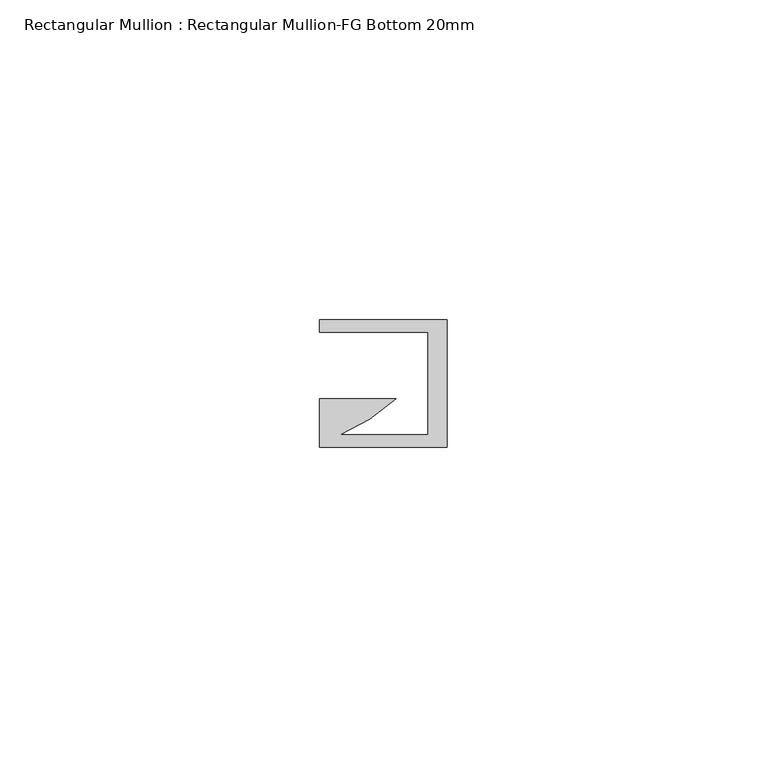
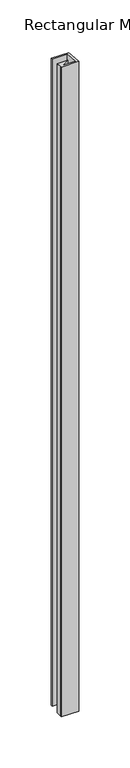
"""IFC4 building model written with IfcOpenShell, lengths in millimetres: member geometry, Rectangular Mullion : Rectangular Mullion-FG Bottom 20mm."""

from ifc_helpers import new_model, si_unit, frame, origin, place, context, project, spatial, ellipse_curve, source, transform, mapped, element, save
from ifc_brep_helpers import plane_surface, cylinder_surface, advanced_brep


def rectangular_mullion_rectangular_mullion_fg_bottom_20mm_7ce49348(model_context):
    return source(origin(), model_context, "Body", "AdvancedBrep", [
        advanced_brep(
        [(-20.0, -0.001, 9.23e-05), (0.0, -0.001, 9.23e-05), (0.0, -0.001, -773.9460596), (-20.0, -0.001, -773.9460596), (-20.0, -2.001, 0.1847207), (-20.0, -2.001, -774.130688), (-3.0, -2.001, 0.1847207), (-3.0, -2.001, -774.130688), (-3.0, -18.001, 1.6617475), (-3.0, -18.001, -775.6077148), (-16.7813522, -18.001, 1.6617475), (-16.7813522, -18.001, -775.6077148), (-8.0121425, -12.381, 1.1429418), (-8.0121425, -12.381, -775.0889091), (-20.0, -12.381, 1.1429418), (-20.0, -12.381, -775.0889091), (-20.0, -18.001, 1.6617475), (-20.0, -18.001, -775.6077148), (-20.0, -20.001, 1.8463758), (-20.0, -20.001, -775.7923432), (0.0, -20.001, 1.8463758), (0.0, -20.001, -775.7923432)],
        [
            (0, 1),
            (1, 2),
            (2, 3),
            (3, 0),
            (4, 0),
            (3, 5),
            (5, 4),
            (6, 4),
            (5, 7),
            (7, 6),
            (8, 6),
            (7, 9),
            (9, 8),
            (10, 8),
            (9, 11),
            (11, 10),
            (12, 10, ellipse_curve(frame((-28.5616269, 10.0319926, -0.9260951), z_axis=(0.0, -0.09192332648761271, -0.995766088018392), x_axis=(0.0, -0.9957660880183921, 0.09192332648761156)), 30.5369138, 30.4076232)),
            (11, 13, ellipse_curve(frame((-28.5616269, 10.0319926, -773.0198722), z_axis=(0.0, -0.09192332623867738, 0.9957660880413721), x_axis=(0.0, 0.9957660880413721, 0.09192332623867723)), 30.5369138, 30.4076232)),
            (13, 12),
            (14, 12),
            (13, 15),
            (15, 14),
            (16, 14),
            (15, 17),
            (17, 16),
            (18, 16),
            (17, 19),
            (19, 18),
            (20, 18),
            (19, 21),
            (21, 20),
            (1, 20),
            (21, 2),
        ],
        [
            plane_surface(frame((0.0, -0.001, 0.0), z_axis=(0.0, 1.0, 0.0), x_axis=(0.0, 0.0, -1.0))),
            plane_surface(frame((-20.0, -0.001, 0.0), z_axis=(-1.0, 0.0, 0.0), x_axis=(0.0, 0.0, -1.0))),
            plane_surface(frame((-20.0, -2.001, 0.0), z_axis=(0.0, -1.0, 0.0), x_axis=(0.0, 0.0, -1.0))),
            plane_surface(frame((-3.0, -2.001, 0.0), z_axis=(-1.0, 0.0, 0.0), x_axis=(0.0, 0.0, -1.0))),
            plane_surface(frame((-3.0, -18.001, 0.0), z_axis=(0.0, 1.0, 0.0), x_axis=(0.0, 0.0, -1.0))),
            cylinder_surface(frame((-28.5616269, 10.0319926, 0.0), z_axis=(0.0, 0.0, 1.0), x_axis=(-1.0, 0.0, 0.0)), 30.4076232),
            plane_surface(frame((-8.0121425, -12.381, 0.0), z_axis=(0.0, 1.0, 0.0), x_axis=(0.0, 0.0, -1.0))),
            plane_surface(frame((-20.0, -12.381, 0.0), z_axis=(-1.0, 0.0, 0.0), x_axis=(0.0, 0.0, -1.0))),
            plane_surface(frame((-20.0, -18.001, 0.0), z_axis=(-1.0, 0.0, 0.0), x_axis=(0.0, 0.0, -1.0))),
            plane_surface(frame((-20.0, -20.001, 0.0), z_axis=(0.0, -1.0, 0.0), x_axis=(0.0, 0.0, -1.0))),
            plane_surface(frame((0.0, -20.001, 0.0), z_axis=(1.0, 0.0, 0.0), x_axis=(0.0, 0.0, -1.0))),
            plane_surface(frame((-304.8, 0.0, 0.0), z_axis=(0.0, 0.09192332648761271, 0.995766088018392), x_axis=(0.0, 0.995766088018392, -0.09192332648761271))),
            plane_surface(frame((-304.8, 0.0, -773.9459673), z_axis=(0.0, 0.09192332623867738, -0.9957660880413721), x_axis=(0.0, 0.9957660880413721, 0.09192332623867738))),
        ],
        [
            (0, [[1, 2, 3, 4]]),
            (1, [[5, -4, 6, 7]]),
            (2, [[8, -7, 9, 10]]),
            (3, [[11, -10, 12, 13]]),
            (4, [[14, -13, 15, 16]]),
            (5, [[17, -16, 18, 19]]),
            (6, [[20, -19, 21, 22]]),
            (7, [[23, -22, 24, 25]]),
            (8, [[26, -25, 27, 28]]),
            (9, [[29, -28, 30, 31]]),
            (10, [[32, -31, 33, -2]]),
            (11, [[-1, -5, -8, -11, -14, -17, -20, -23, -26, -29, -32]]),
            (12, [[-33, -30, -27, -24, -21, -18, -15, -12, -9, -6, -3]]),
        ],
    ),
    ])


if __name__ == "__main__":
    model = new_model("IFC4")
    model_context = context("Model", 3, world=origin())
    ifc_project = project(units=[si_unit("LENGTHUNIT", "METRE", prefix="MILLI")], contexts=[model_context])
    site = spatial("IfcSite", under=ifc_project)
    building = spatial("IfcBuilding", under=site)
    placement = place(None, origin())
    rectangular_mullion_rectangular_mullion_fg_bottom_20mm_shape = rectangular_mullion_rectangular_mullion_fg_bottom_20mm_7ce49348(model_context)
    element("IfcMember", 1, ObjectType="Rectangular Mullion : Rectangular Mullion-FG Bottom 20mm", at=placement, inside=building, context=model_context, shape_type="MappedRepresentation", body=[
        mapped(rectangular_mullion_rectangular_mullion_fg_bottom_20mm_shape, transform((0.0, 0.0, 0.0), x_axis=(1.0, 0.0, 0.0), y_axis=(0.0, 1.0, 0.0), z_axis=(0.0, 0.0, 1.0))),
    ])
    save(model, "model.ifc")
